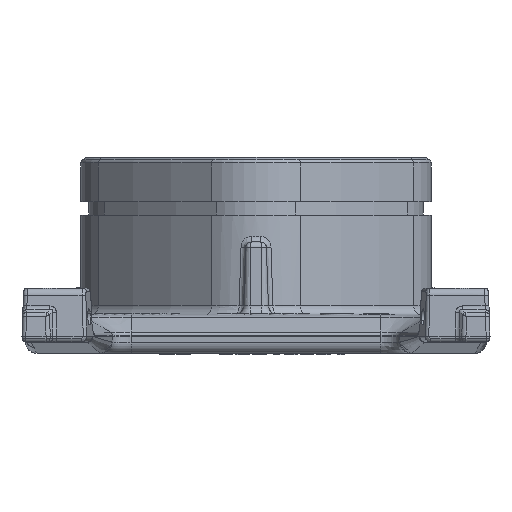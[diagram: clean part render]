
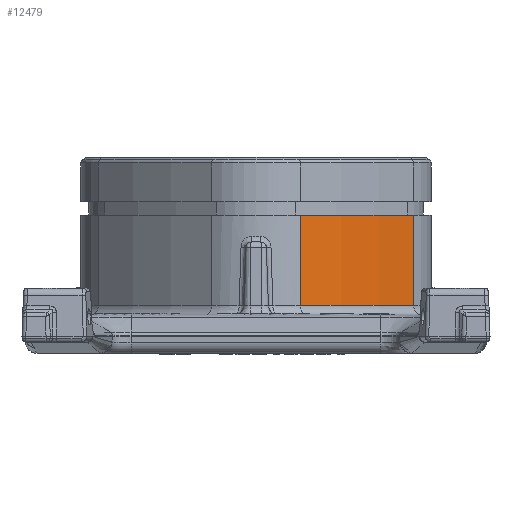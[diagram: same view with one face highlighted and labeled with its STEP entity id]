
A CAD part, left-side view. The second image highlights one B-rep face of the part: STEP entity #12479.
In plain terms, the highlighted cylindrical face has radius 150 mm (diameter 300 mm), a partial arc.
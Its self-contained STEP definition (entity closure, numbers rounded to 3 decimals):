
#4701=AXIS2_PLACEMENT_3D('Circle Axis2P3D',#4699,#4700,$) ;
#12459=AXIS2_PLACEMENT_3D('Cylinder Axis2P3D',#12456,#12457,#12458) ;
#12463=AXIS2_PLACEMENT_3D('Circle Axis2P3D',#12461,#12462,$) ;
#4679=CARTESIAN_POINT('Vertex',(-49.993,-41.019,9.5)) ;
#4699=CARTESIAN_POINT('Axis2P3D Location',(45.084,75.,9.5)) ;
#4703=CARTESIAN_POINT('Vertex',(-77.436,-11.538,9.5)) ;
#12441=CARTESIAN_POINT('Vertex',(-49.993,-41.019,33.)) ;
#12444=CARTESIAN_POINT('Line Origine',(-49.993,-41.019,24.)) ;
#12456=CARTESIAN_POINT('Axis2P3D Location',(45.084,75.,24.)) ;
#12461=CARTESIAN_POINT('Axis2P3D Location',(45.084,75.,33.)) ;
#12465=CARTESIAN_POINT('Vertex',(-77.436,-11.538,33.)) ;
#12468=CARTESIAN_POINT('Line Origine',(-77.436,-11.538,24.)) ;
#4700=DIRECTION('Axis2P3D Direction',(0.,-0.,1.)) ;
#12445=DIRECTION('Vector Direction',(0.,0.,1.)) ;
#12457=DIRECTION('Axis2P3D Direction',(0.,0.,1.)) ;
#12458=DIRECTION('Axis2P3D XDirection',(-0.817,-0.577,0.)) ;
#12462=DIRECTION('Axis2P3D Direction',(0.,0.,1.)) ;
#12469=DIRECTION('Vector Direction',(0.,0.,1.)) ;
#12446=VECTOR('Line Direction',#12445,1.) ;
#12470=VECTOR('Line Direction',#12469,1.) ;
#12474=ORIENTED_EDGE('',*,*,#12448,.T.) ;
#12475=ORIENTED_EDGE('',*,*,#12467,.F.) ;
#12476=ORIENTED_EDGE('',*,*,#12472,.F.) ;
#12477=ORIENTED_EDGE('',*,*,#4705,.F.) ;
#12479=ADVANCED_FACE('Adapter komplett mit Verrundungen',(#12478),#12460,.T.) ;
#4702=CIRCLE('generated circle',#4701,150.) ;
#12464=CIRCLE('generated circle',#12463,150.) ;
#12460=CYLINDRICAL_SURFACE('generated cylinder',#12459,150.) ;
#4705=EDGE_CURVE('',#4680,#4704,#4702,.F.) ;
#12448=EDGE_CURVE('',#4680,#12442,#12447,.T.) ;
#12467=EDGE_CURVE('',#12466,#12442,#12464,.T.) ;
#12472=EDGE_CURVE('',#4704,#12466,#12471,.T.) ;
#12473=EDGE_LOOP('',(#12474,#12475,#12476,#12477)) ;
#12478=FACE_OUTER_BOUND('',#12473,.T.) ;
#12447=LINE('Line',#12444,#12446) ;
#12471=LINE('Line',#12468,#12470) ;
#4680=VERTEX_POINT('',#4679) ;
#4704=VERTEX_POINT('',#4703) ;
#12442=VERTEX_POINT('',#12441) ;
#12466=VERTEX_POINT('',#12465) ;
